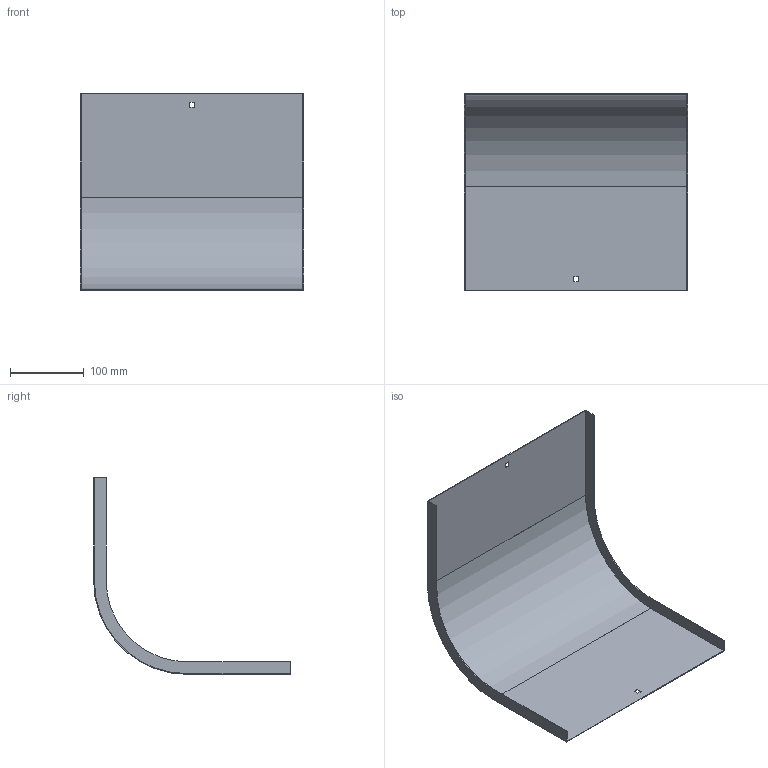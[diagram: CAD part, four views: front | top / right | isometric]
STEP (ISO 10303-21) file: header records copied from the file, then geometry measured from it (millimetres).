
FILE_DESCRIPTION (( 'STEP AP214' ), '1' );
FILE_NAME ('OD9_301.step', '2025-07-16T09:13:15', ( '' ), ( '' ), 'SwSTEP 2.0', 'SolidWorks 2023', '' );
FILE_SCHEMA (( 'AUTOMOTIVE_DESIGN' ));
Length unit declared in the file: millimetre
Products named in the file (1): OD9_301
Bounding box: 302 x 266 x 266 mm (x, y, z)
Volume: 158851.8 mm3; surface area: 319327.6 mm2
Topology: 1 solids, 1 shells, 26 faces, 72 edges, 48 vertices
Faces by surface type: plane 22, cylinder 4
Entity records: 855 total; most frequent: CARTESIAN_POINT 147, ORIENTED_EDGE 144, DIRECTION 134, EDGE_CURVE 72, LINE 64, VECTOR 64, VERTEX_POINT 48, AXIS2_PLACEMENT_3D 35
